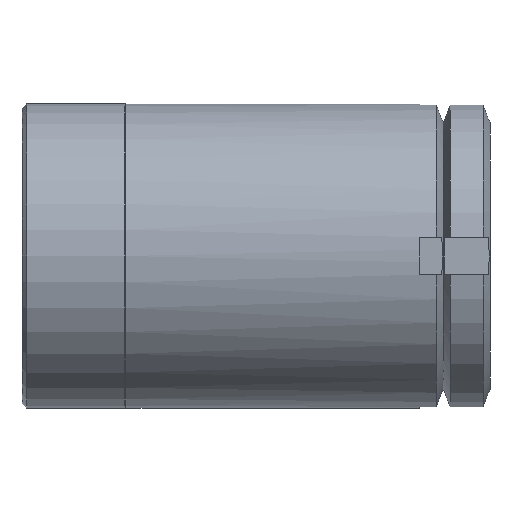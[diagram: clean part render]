
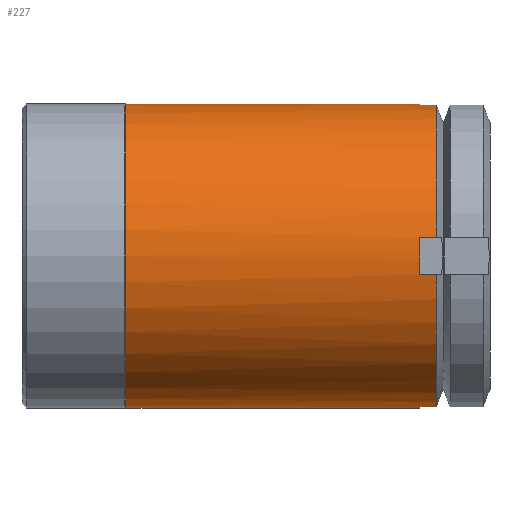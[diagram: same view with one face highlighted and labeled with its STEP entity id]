
A CAD part, front view. The second image highlights one B-rep face of the part: STEP entity #227.
In plain terms, the highlighted cylindrical face has radius 32.5 mm (diameter 65 mm), a full revolution.
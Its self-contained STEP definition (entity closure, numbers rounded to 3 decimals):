
#227 = ADVANCED_FACE( '', ( #342, #343 ), #344, .T. );
#342 = FACE_OUTER_BOUND( '', #527, .T. );
#343 = FACE_OUTER_BOUND( '', #528, .T. );
#344 = CYLINDRICAL_SURFACE( '', #529, 32.5 );
#527 = EDGE_LOOP( '', ( #756 ) );
#528 = EDGE_LOOP( '', ( #757, #758, #759, #760, #761, #762, #763, #764, #765, #766, #767, #768, #769, #770, #771, #772 ) );
#529 = AXIS2_PLACEMENT_3D( '', #773, #774, #775 );
#756 = ORIENTED_EDGE( '', *, *, #1157, .F. );
#757 = ORIENTED_EDGE( '', *, *, #1158, .F. );
#758 = ORIENTED_EDGE( '', *, *, #1159, .T. );
#759 = ORIENTED_EDGE( '', *, *, #1160, .T. );
#760 = ORIENTED_EDGE( '', *, *, #1161, .F. );
#761 = ORIENTED_EDGE( '', *, *, #1162, .F. );
#762 = ORIENTED_EDGE( '', *, *, #1163, .T. );
#763 = ORIENTED_EDGE( '', *, *, #1164, .T. );
#764 = ORIENTED_EDGE( '', *, *, #1165, .F. );
#765 = ORIENTED_EDGE( '', *, *, #1166, .F. );
#766 = ORIENTED_EDGE( '', *, *, #1143, .T. );
#767 = ORIENTED_EDGE( '', *, *, #1167, .T. );
#768 = ORIENTED_EDGE( '', *, *, #1168, .F. );
#769 = ORIENTED_EDGE( '', *, *, #1169, .F. );
#770 = ORIENTED_EDGE( '', *, *, #1170, .T. );
#771 = ORIENTED_EDGE( '', *, *, #1171, .T. );
#772 = ORIENTED_EDGE( '', *, *, #1172, .F. );
#773 = CARTESIAN_POINT( '', ( 0., 9.939, 0. ) );
#774 = DIRECTION( '', ( 0., 1., 0. ) );
#775 = DIRECTION( '', ( 0., 0., -1. ) );
#1143 = EDGE_CURVE( '', #1288, #1286, #1289, .T. );
#1157 = EDGE_CURVE( '', #1315, #1315, #1316, .T. );
#1158 = EDGE_CURVE( '', #1317, #1318, #1319, .T. );
#1159 = EDGE_CURVE( '', #1317, #1320, #1321, .T. );
#1160 = EDGE_CURVE( '', #1320, #1322, #1323, .T. );
#1161 = EDGE_CURVE( '', #1324, #1322, #1325, .T. );
#1162 = EDGE_CURVE( '', #1326, #1324, #1327, .T. );
#1163 = EDGE_CURVE( '', #1326, #1328, #1329, .T. );
#1164 = EDGE_CURVE( '', #1328, #1330, #1331, .T. );
#1165 = EDGE_CURVE( '', #1332, #1330, #1333, .T. );
#1166 = EDGE_CURVE( '', #1288, #1332, #1334, .T. );
#1167 = EDGE_CURVE( '', #1286, #1335, #1336, .T. );
#1168 = EDGE_CURVE( '', #1337, #1335, #1338, .T. );
#1169 = EDGE_CURVE( '', #1339, #1337, #1340, .T. );
#1170 = EDGE_CURVE( '', #1339, #1341, #1342, .T. );
#1171 = EDGE_CURVE( '', #1341, #1343, #1344, .T. );
#1172 = EDGE_CURVE( '', #1318, #1343, #1345, .T. );
#1286 = VERTEX_POINT( '', #1522 );
#1288 = VERTEX_POINT( '', #1530 );
#1289 = LINE( '', #1531, #1532 );
#1315 = VERTEX_POINT( '', #1560 );
#1316 = CIRCLE( '', #1561, 32.5 );
#1317 = VERTEX_POINT( '', #1562 );
#1318 = VERTEX_POINT( '', #1563 );
#1319 = CIRCLE( '', #1564, 32.5 );
#1320 = VERTEX_POINT( '', #1565 );
#1321 = LINE( '', #1566, #1567 );
#1322 = VERTEX_POINT( '', #1568 );
#1323 = CIRCLE( '', #1569, 32.5 );
#1324 = VERTEX_POINT( '', #1570 );
#1325 = LINE( '', #1571, #1572 );
#1326 = VERTEX_POINT( '', #1573 );
#1327 = CIRCLE( '', #1574, 32.5 );
#1328 = VERTEX_POINT( '', #1575 );
#1329 = LINE( '', #1576, #1577 );
#1330 = VERTEX_POINT( '', #1578 );
#1331 = CIRCLE( '', #1579, 32.5 );
#1332 = VERTEX_POINT( '', #1580 );
#1333 = LINE( '', #1581, #1582 );
#1334 = CIRCLE( '', #1583, 32.5 );
#1335 = VERTEX_POINT( '', #1584 );
#1336 = CIRCLE( '', #1585, 32.5 );
#1337 = VERTEX_POINT( '', #1586 );
#1338 = LINE( '', #1587, #1588 );
#1339 = VERTEX_POINT( '', #1589 );
#1340 = CIRCLE( '', #1590, 32.5 );
#1341 = VERTEX_POINT( '', #1591 );
#1342 = LINE( '', #1592, #1593 );
#1343 = VERTEX_POINT( '', #1594 );
#1344 = CIRCLE( '', #1595, 32.5 );
#1345 = LINE( '', #1596, #1597 );
#1522 = CARTESIAN_POINT( '', ( -32.253, 88.54, -4. ) );
#1530 = CARTESIAN_POINT( '', ( -32.253, 85., -4. ) );
#1531 = CARTESIAN_POINT( '', ( -32.253, 85., -4. ) );
#1532 = VECTOR( '', #2014, 1000. );
#1560 = CARTESIAN_POINT( '', ( 0., 22.213, -32.5 ) );
#1561 = AXIS2_PLACEMENT_3D( '', #2050, #2051, #2052 );
#1562 = CARTESIAN_POINT( '', ( 32.253, 85., 4. ) );
#1563 = CARTESIAN_POINT( '', ( 32.253, 85., -4. ) );
#1564 = AXIS2_PLACEMENT_3D( '', #2053, #2054, #2055 );
#1565 = CARTESIAN_POINT( '', ( 32.253, 88.54, 4. ) );
#1566 = CARTESIAN_POINT( '', ( 32.253, 85., 4. ) );
#1567 = VECTOR( '', #2056, 1000. );
#1568 = CARTESIAN_POINT( '', ( 4., 88.54, 32.253 ) );
#1569 = AXIS2_PLACEMENT_3D( '', #2057, #2058, #2059 );
#1570 = CARTESIAN_POINT( '', ( 4., 85., 32.253 ) );
#1571 = CARTESIAN_POINT( '', ( 4., 85., 32.253 ) );
#1572 = VECTOR( '', #2060, 1000. );
#1573 = CARTESIAN_POINT( '', ( -4., 85., 32.253 ) );
#1574 = AXIS2_PLACEMENT_3D( '', #2061, #2062, #2063 );
#1575 = CARTESIAN_POINT( '', ( -4., 88.54, 32.253 ) );
#1576 = CARTESIAN_POINT( '', ( -4., 85., 32.253 ) );
#1577 = VECTOR( '', #2064, 1000. );
#1578 = CARTESIAN_POINT( '', ( -32.253, 88.54, 4. ) );
#1579 = AXIS2_PLACEMENT_3D( '', #2065, #2066, #2067 );
#1580 = CARTESIAN_POINT( '', ( -32.253, 85., 4. ) );
#1581 = CARTESIAN_POINT( '', ( -32.253, 85., 4. ) );
#1582 = VECTOR( '', #2068, 1000. );
#1583 = AXIS2_PLACEMENT_3D( '', #2069, #2070, #2071 );
#1584 = CARTESIAN_POINT( '', ( -4., 88.54, -32.253 ) );
#1585 = AXIS2_PLACEMENT_3D( '', #2072, #2073, #2074 );
#1586 = CARTESIAN_POINT( '', ( -4., 85., -32.253 ) );
#1587 = CARTESIAN_POINT( '', ( -4., 85., -32.253 ) );
#1588 = VECTOR( '', #2075, 1000. );
#1589 = CARTESIAN_POINT( '', ( 4., 85., -32.253 ) );
#1590 = AXIS2_PLACEMENT_3D( '', #2076, #2077, #2078 );
#1591 = CARTESIAN_POINT( '', ( 4., 88.54, -32.253 ) );
#1592 = CARTESIAN_POINT( '', ( 4., 85., -32.253 ) );
#1593 = VECTOR( '', #2079, 1000. );
#1594 = CARTESIAN_POINT( '', ( 32.253, 88.54, -4. ) );
#1595 = AXIS2_PLACEMENT_3D( '', #2080, #2081, #2082 );
#1596 = CARTESIAN_POINT( '', ( 32.253, 85., -4. ) );
#1597 = VECTOR( '', #2083, 1000. );
#2014 = DIRECTION( '', ( 0., 1., 0. ) );
#2050 = CARTESIAN_POINT( '', ( 0., 22.213, 0. ) );
#2051 = DIRECTION( '', ( 0., -1., 0. ) );
#2052 = DIRECTION( '', ( 0., 0., -1. ) );
#2053 = CARTESIAN_POINT( '', ( 0., 85., 0. ) );
#2054 = DIRECTION( '', ( 0., 1., 0. ) );
#2055 = DIRECTION( '', ( 0., 0., 1. ) );
#2056 = DIRECTION( '', ( 0., 1., 0. ) );
#2057 = CARTESIAN_POINT( '', ( 0., 88.54, 0. ) );
#2058 = DIRECTION( '', ( 0., -1., 0. ) );
#2059 = DIRECTION( '', ( 0., 0., -1. ) );
#2060 = DIRECTION( '', ( 0., 1., 0. ) );
#2061 = CARTESIAN_POINT( '', ( 0., 85., 0. ) );
#2062 = DIRECTION( '', ( 0., 1., 0. ) );
#2063 = DIRECTION( '', ( 0., 0., 1. ) );
#2064 = DIRECTION( '', ( 0., 1., 0. ) );
#2065 = CARTESIAN_POINT( '', ( 0., 88.54, 0. ) );
#2066 = DIRECTION( '', ( 0., -1., 0. ) );
#2067 = DIRECTION( '', ( 0., 0., -1. ) );
#2068 = DIRECTION( '', ( 0., 1., 0. ) );
#2069 = CARTESIAN_POINT( '', ( 0., 85., 0. ) );
#2070 = DIRECTION( '', ( 0., 1., 0. ) );
#2071 = DIRECTION( '', ( 0., 0., 1. ) );
#2072 = CARTESIAN_POINT( '', ( 0., 88.54, 0. ) );
#2073 = DIRECTION( '', ( 0., -1., 0. ) );
#2074 = DIRECTION( '', ( 0., 0., -1. ) );
#2075 = DIRECTION( '', ( 0., 1., 0. ) );
#2076 = CARTESIAN_POINT( '', ( 0., 85., 0. ) );
#2077 = DIRECTION( '', ( 0., 1., 0. ) );
#2078 = DIRECTION( '', ( 0., 0., 1. ) );
#2079 = DIRECTION( '', ( 0., 1., 0. ) );
#2080 = CARTESIAN_POINT( '', ( 0., 88.54, 0. ) );
#2081 = DIRECTION( '', ( 0., -1., 0. ) );
#2082 = DIRECTION( '', ( 0., 0., -1. ) );
#2083 = DIRECTION( '', ( 0., 1., 0. ) );
